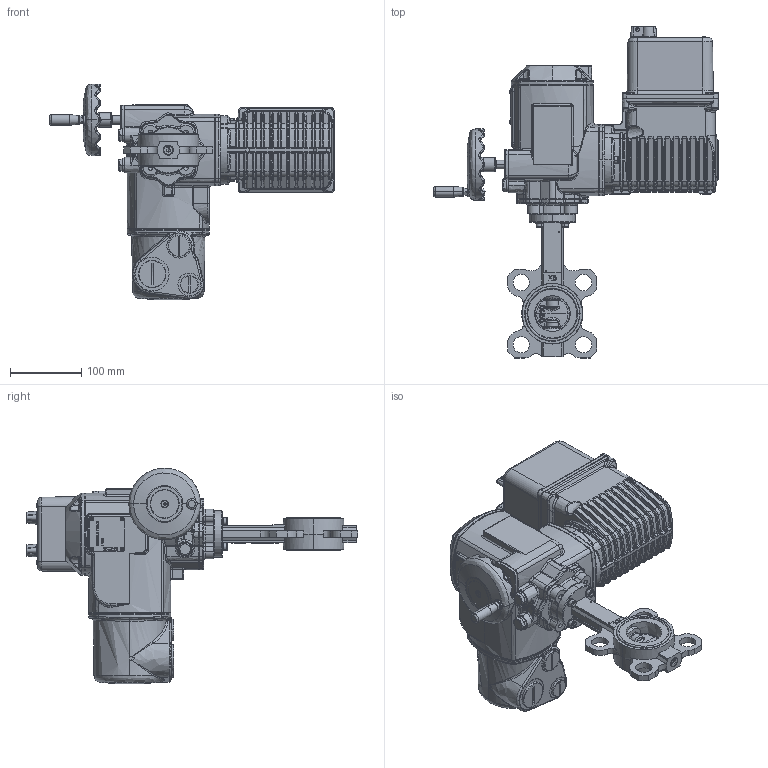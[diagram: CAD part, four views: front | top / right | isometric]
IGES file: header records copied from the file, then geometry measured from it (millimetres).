
Start section: SolidWorks IGES file using NURBS representation for surfaces
Global section: file name: H:\BE BIBLIOTHEQUE 3D\Projet_Biblio3D_2016\FSK\VPI\VPI-U04\VPI-U04 DN50.Igs; native system: SolidWorks 2014; preprocessor: SolidWorks 2014; author: a.cartier; date: 160929.180714; units: millimetre
Bounding box: 398.75 x 464.55 x 301.71 mm (x, y, z)
Volume: 7232662.3 mm3; surface area: 578874.6 mm2
Topology: 46 solids, 48 shells, 4320 faces, 10590 edges, 6246 vertices
Faces by surface type: bspline 4320
